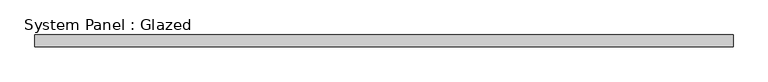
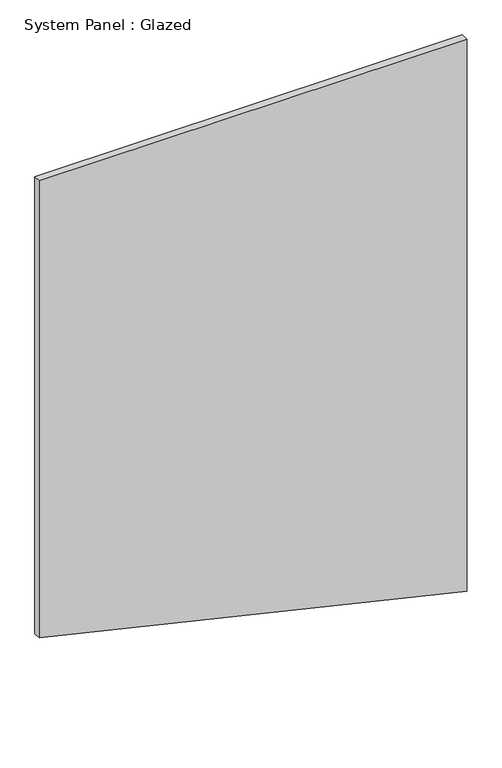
"""IFC4 building model written with IfcOpenShell, lengths in millimetres: plate geometry, System Panel : Glazed."""

from ifc_helpers import new_model, si_unit, frame, origin, place, context, project, spatial, polyline, outline, extrude, source, transform, mapped, element, save


def system_panel_glazed_8eb7e1bf(model_context):
    return source(origin(), model_context, "Body", "SweptSolid", [
        extrude(outline(polyline([(345.7559661, -735.8695652), (0.0, 735.8695652), (2007.3009005, 735.8695652), (2007.3009005, -735.8695652), (345.7559661, -735.8695652)])), frame((0.0, 24.5, 0.0), z_axis=(0.0, 1.0, 0.0), x_axis=(0.0, 0.0, 1.0)), (0.0, 0.0, 1.0), 25.0),
    ])


if __name__ == "__main__":
    model = new_model("IFC4")
    model_context = context("Model", 3, world=origin())
    ifc_project = project(units=[si_unit("LENGTHUNIT", "METRE", prefix="MILLI")], contexts=[model_context])
    site = spatial("IfcSite", under=ifc_project)
    building = spatial("IfcBuilding", under=site)
    placement = place(None, origin())
    system_panel_glazed_shape = system_panel_glazed_8eb7e1bf(model_context)
    element("IfcPlate", 1, ObjectType="System Panel : Glazed", at=placement, inside=building, context=model_context, shape_type="MappedRepresentation", body=[
        mapped(system_panel_glazed_shape, transform((0.0, 0.0, 0.0), x_axis=(1.0, 0.0, 0.0), y_axis=(0.0, 1.0, 0.0), z_axis=(0.0, 0.0, 1.0))),
    ])
    save(model, "model.ifc")
